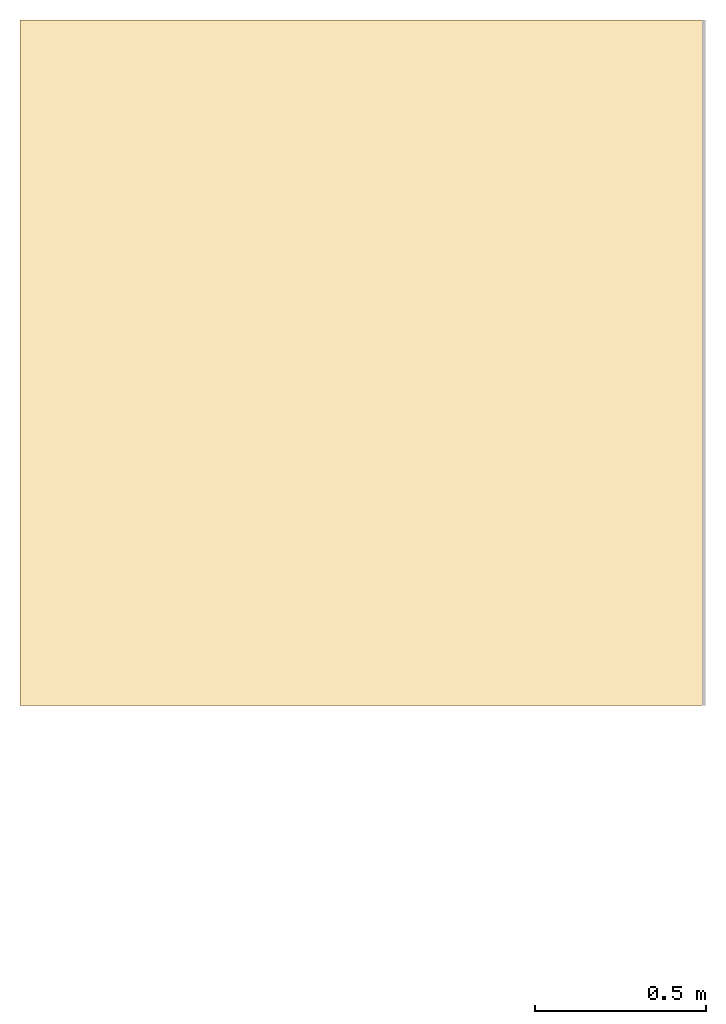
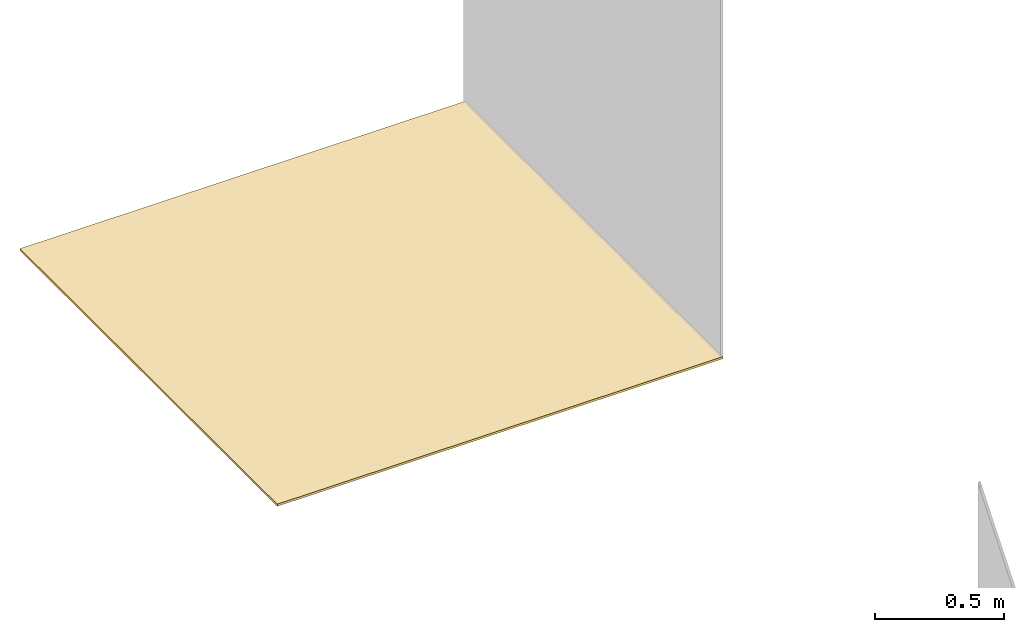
# One storey, part 2 of 2: 1 covering.
"""IFC2X3 building model written with IfcOpenShell, lengths in millimetres."""

from ifc_helpers import new_model, entity, si_unit, converted_unit, derived_unit, direction, frame, frame_2d, origin, place, context, subcontext, project, spatial, rectangle, extrude, material, layer, layer_set, layer_usage, element, save


model = new_model("IFC2X3")

# Units and contexts
model_context = context("Model", 3, precision=0.01, world=origin(), true_north=direction((6.12303176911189e-17, 1.0)))
body_context = subcontext(model_context, "Body", "Model", "MODEL_VIEW")
ifc_project = project(units=[si_unit("LENGTHUNIT", "METRE", prefix="MILLI"), si_unit("AREAUNIT", "SQUARE_METRE"), si_unit("VOLUMEUNIT", "CUBIC_METRE"), converted_unit("PLANEANGLEUNIT", "DEGREE", entity("IfcRatioMeasure", 0.0174532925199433), si_unit("PLANEANGLEUNIT", "RADIAN"), dimensions=[0, 0, 0, 0, 0, 0, 0]), si_unit("MASSUNIT", "GRAM", prefix="KILO"), derived_unit("MASSDENSITYUNIT", [(si_unit("MASSUNIT", "GRAM", prefix="KILO"), 1), (si_unit("LENGTHUNIT", "METRE"), -3)]), si_unit("TIMEUNIT", "SECOND"), si_unit("FREQUENCYUNIT", "HERTZ"), si_unit("THERMODYNAMICTEMPERATUREUNIT", "DEGREE_CELSIUS"), derived_unit("THERMALTRANSMITTANCEUNIT", [(si_unit("MASSUNIT", "GRAM", prefix="KILO"), 1), (si_unit("THERMODYNAMICTEMPERATUREUNIT", "KELVIN"), -1), (si_unit("TIMEUNIT", "SECOND"), -3)]), derived_unit("VOLUMETRICFLOWRATEUNIT", [(si_unit("LENGTHUNIT", "METRE"), 3), (si_unit("TIMEUNIT", "SECOND"), -1)]), si_unit("ELECTRICCURRENTUNIT", "AMPERE"), si_unit("ELECTRICVOLTAGEUNIT", "VOLT"), si_unit("POWERUNIT", "WATT"), si_unit("FORCEUNIT", "NEWTON", prefix="KILO"), si_unit("ILLUMINANCEUNIT", "LUX"), si_unit("LUMINOUSFLUXUNIT", "LUMEN"), si_unit("LUMINOUSINTENSITYUNIT", "CANDELA"), derived_unit("USERDEFINED", [(si_unit("MASSUNIT", "GRAM", prefix="KILO"), -1), (si_unit("LENGTHUNIT", "METRE"), -2), (si_unit("TIMEUNIT", "SECOND"), 3), (si_unit("LUMINOUSFLUXUNIT", "LUMEN"), 1)]), derived_unit("LINEARVELOCITYUNIT", [(si_unit("LENGTHUNIT", "METRE"), 1), (si_unit("TIMEUNIT", "SECOND"), -1)]), si_unit("PRESSUREUNIT", "PASCAL"), derived_unit("USERDEFINED", [(si_unit("LENGTHUNIT", "METRE"), -2), (si_unit("MASSUNIT", "GRAM", prefix="KILO"), 1), (si_unit("TIMEUNIT", "SECOND"), -2)])], contexts=[model_context])

# Site, building, storey
site_placement = place(None, origin())
site = spatial("IfcSite", under=ifc_project, at=site_placement, Name="Default", CompositionType="ELEMENT")
building_placement = place(site_placement, origin())
building = spatial("IfcBuilding", under=site, at=building_placement, CompositionType="ELEMENT")
storey_placement = place(building_placement, origin())
storey = spatial("IfcBuildingStorey", under=building, at=storey_placement, Name="Level 1", CompositionType="ELEMENT", Elevation=0.0)

# Covering
ifc_material = material(Name="PGR_Porcelanosa_CeramicTiles_Travertino_Medici-596x596mm-100191337")
ifc_layer = layer(ifc_material, 10.3)
ifc_layer_set = layer_set([ifc_layer], Name="Floor:PGR_Porcelanosa_CeramicTiles_Travertino_Medici-596x596mm-100191337")
ifc_layer_usage = layer_usage(ifc_layer_set, "AXIS3", "POSITIVE", 0.0)
covering_placement = place(storey_placement, origin())
element("IfcCovering", 1, at=covering_placement, inside=storey, material=ifc_layer_usage, Name="Floor:PGR_Porcelanosa_CeramicTiles_Travertino_Medici-596x596mm-100191337", ObjectType="Floor:PGR_Porcelanosa_CeramicTiles_Travertino_Medici-596x596mm-100191337", PredefinedType="FLOORING", context=body_context, shape_type="SweptSolid", body=[
    extrude(rectangle(XDim=2000.0, YDim=2000.0, at=frame_2d((2.8421709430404e-13, 1.13686837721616e-13), x_axis=(1.0, 0.0))), frame((2527.07742659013, -3501.98267476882, 0.0), z_axis=(0.0, 0.0, -1.0), x_axis=(0.0, 1.0, 0.0)), (0.0, 0.0, 1.0), 10.3),
])

save(model, "model.ifc")
